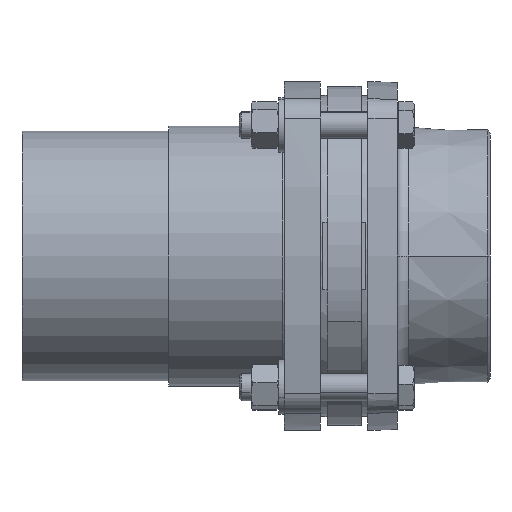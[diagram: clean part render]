
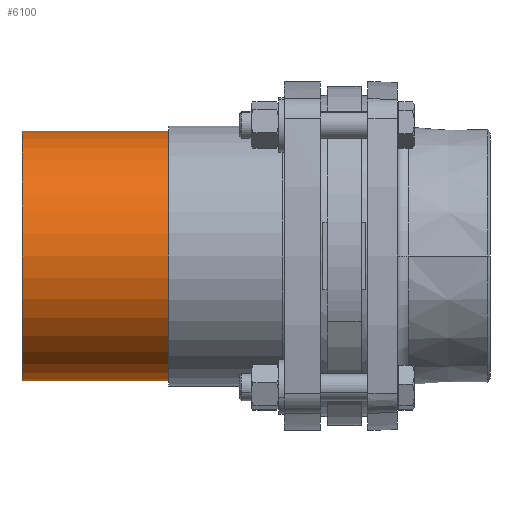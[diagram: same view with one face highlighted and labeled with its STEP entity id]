
A CAD part, front view. The second image highlights one B-rep face of the part: STEP entity #6100.
In plain terms, the highlighted cylindrical face has radius 55.25 mm (diameter 110.5 mm), a partial arc.
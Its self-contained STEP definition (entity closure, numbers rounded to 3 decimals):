
#2632 = VERTEX_POINT ( 'NONE', #10313 ) ;
#2635 = VERTEX_POINT ( 'NONE', #10316 ) ;
#2638 = VERTEX_POINT ( 'NONE', #10319 ) ;
#2639 = VERTEX_POINT ( 'NONE', #10320 ) ;
#4550 = DIRECTION ( 'NONE',  ( -1., 0., 0. ) ) ;
#4553 = FACE_OUTER_BOUND ( 'NONE', #5541, .T. ) ;
#4554 = CARTESIAN_POINT ( 'NONE',  ( -18., 0., 0. ) ) ;
#4555 = CYLINDRICAL_SURFACE ( 'NONE', #9943, 55.25 ) ;
#4556 = DIRECTION ( 'NONE',  ( 0., 0., 1. ) ) ;
#5309 = EDGE_CURVE ( 'NONE', #2632, #2638, #10499, .T. ) ;
#5311 = EDGE_CURVE ( 'NONE', #2635, #2639, #10503, .T. ) ;
#5541 = EDGE_LOOP ( 'NONE', ( #9203, #9204, #9205, #9206 ) ) ;
#5707 = EDGE_CURVE ( 'NONE', #2635, #2632, #10961, .T. ) ;
#5744 = EDGE_CURVE ( 'NONE', #2639, #2638, #11032, .T. ) ;
#6100 = ADVANCED_FACE ( 'NONE', ( #4553 ), #4555, .T. ) ;
#8723 = CARTESIAN_POINT ( 'NONE',  ( -18., 0., 0. ) ) ;
#8724 = DIRECTION ( 'NONE',  ( 1., 0., 0. ) ) ;
#8725 = DIRECTION ( 'NONE',  ( 0., 0., -1. ) ) ;
#8834 = CARTESIAN_POINT ( 'NONE',  ( -133., 0., 0. ) ) ;
#8835 = DIRECTION ( 'NONE',  ( 1., 0., 0. ) ) ;
#8836 = DIRECTION ( 'NONE',  ( 0., 0., -1. ) ) ;
#9203 = ORIENTED_EDGE ( 'NONE', *, *, #5309, .F. ) ;
#9204 = ORIENTED_EDGE ( 'NONE', *, *, #5707, .F. ) ;
#9205 = ORIENTED_EDGE ( 'NONE', *, *, #5311, .T. ) ;
#9206 = ORIENTED_EDGE ( 'NONE', *, *, #5744, .T. ) ;
#9943 = AXIS2_PLACEMENT_3D ( 'NONE', #4554, #4550, #4556 ) ;
#10112 = VECTOR ( 'NONE', #10504, 1000. ) ;
#10116 = VECTOR ( 'NONE', #10509, 1000. ) ;
#10313 = CARTESIAN_POINT ( 'NONE',  ( -18., 0., -55.25 ) ) ;
#10316 = CARTESIAN_POINT ( 'NONE',  ( -18., 0., 55.25 ) ) ;
#10319 = CARTESIAN_POINT ( 'NONE',  ( -133., 0., -55.25 ) ) ;
#10320 = CARTESIAN_POINT ( 'NONE',  ( -133., 0., 55.25 ) ) ;
#10496 = CARTESIAN_POINT ( 'NONE',  ( -18., 0., -55.25 ) ) ;
#10498 = CARTESIAN_POINT ( 'NONE',  ( -18., 0., 55.25 ) ) ;
#10499 = LINE ( 'NONE', #10496, #10112 ) ;
#10503 = LINE ( 'NONE', #10498, #10116 ) ;
#10504 = DIRECTION ( 'NONE',  ( -1., 0., 0. ) ) ;
#10509 = DIRECTION ( 'NONE',  ( -1., 0., 0. ) ) ;
#10961 = CIRCLE ( 'NONE', #10964, 55.25 ) ;
#10964 = AXIS2_PLACEMENT_3D ( 'NONE', #8723, #8724, #8725 ) ;
#11032 = CIRCLE ( 'NONE', #11035, 55.25 ) ;
#11035 = AXIS2_PLACEMENT_3D ( 'NONE', #8834, #8835, #8836 ) ;
